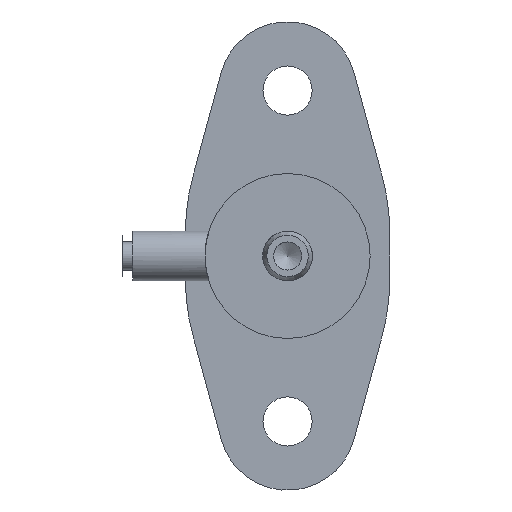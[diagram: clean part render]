
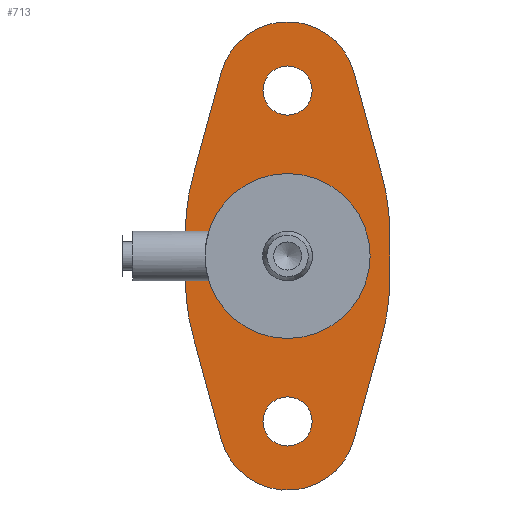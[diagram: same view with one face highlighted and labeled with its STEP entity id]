
A CAD part, left-side view. The second image highlights one B-rep face of the part: STEP entity #713.
In plain terms, the highlighted planar face has unit normal (-1, 0, 0).
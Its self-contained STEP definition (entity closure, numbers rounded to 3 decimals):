
#26=PLANE('',#821);
#39=FACE_BOUND('',#120,.T.);
#40=FACE_BOUND('',#121,.T.);
#41=FACE_BOUND('',#122,.T.);
#78=FACE_OUTER_BOUND('',#119,.T.);
#119=EDGE_LOOP('',(#601,#602,#603,#604,#605,#606,#607,#608,#609,#610,#611,
#612));
#120=EDGE_LOOP('',(#613,#614));
#121=EDGE_LOOP('',(#615,#616));
#122=EDGE_LOOP('',(#617,#618));
#151=LINE('',#1232,#196);
#155=LINE('',#1244,#200);
#159=LINE('',#1256,#204);
#163=LINE('',#1268,#208);
#167=LINE('',#1280,#212);
#170=LINE('',#1289,#215);
#196=VECTOR('',#970,5.2);
#200=VECTOR('',#982,2.328);
#204=VECTOR('',#994,5.2);
#208=VECTOR('',#1006,5.2);
#212=VECTOR('',#1018,2.328);
#215=VECTOR('',#1029,5.2);
#226=CIRCLE('',#746,1.18);
#227=CIRCLE('',#747,1.18);
#230=CIRCLE('',#751,1.18);
#231=CIRCLE('',#752,1.18);
#259=CIRCLE('',#790,3.96);
#262=CIRCLE('',#793,3.96);
#264=CIRCLE('',#799,3.3);
#266=CIRCLE('',#803,10.);
#268=CIRCLE('',#807,10.);
#270=CIRCLE('',#811,3.3);
#272=CIRCLE('',#815,10.);
#274=CIRCLE('',#819,10.);
#284=VERTEX_POINT('',#1078);
#285=VERTEX_POINT('',#1080);
#288=VERTEX_POINT('',#1088);
#289=VERTEX_POINT('',#1090);
#320=VERTEX_POINT('',#1206);
#321=VERTEX_POINT('',#1207);
#326=VERTEX_POINT('',#1222);
#327=VERTEX_POINT('',#1224);
#329=VERTEX_POINT('',#1230);
#331=VERTEX_POINT('',#1236);
#333=VERTEX_POINT('',#1242);
#335=VERTEX_POINT('',#1248);
#337=VERTEX_POINT('',#1254);
#339=VERTEX_POINT('',#1260);
#341=VERTEX_POINT('',#1266);
#343=VERTEX_POINT('',#1272);
#345=VERTEX_POINT('',#1278);
#347=VERTEX_POINT('',#1284);
#361=EDGE_CURVE('',#285,#284,#226,.T.);
#362=EDGE_CURVE('',#284,#285,#227,.T.);
#366=EDGE_CURVE('',#289,#288,#230,.T.);
#367=EDGE_CURVE('',#288,#289,#231,.T.);
#406=EDGE_CURVE('',#320,#321,#259,.T.);
#410=EDGE_CURVE('',#321,#320,#262,.T.);
#413=EDGE_CURVE('',#326,#327,#264,.T.);
#417=EDGE_CURVE('',#329,#326,#151,.T.);
#420=EDGE_CURVE('',#331,#329,#266,.T.);
#423=EDGE_CURVE('',#333,#331,#155,.T.);
#426=EDGE_CURVE('',#335,#333,#268,.T.);
#429=EDGE_CURVE('',#337,#335,#159,.T.);
#432=EDGE_CURVE('',#339,#337,#270,.T.);
#435=EDGE_CURVE('',#341,#339,#163,.T.);
#438=EDGE_CURVE('',#343,#341,#272,.T.);
#441=EDGE_CURVE('',#345,#343,#167,.T.);
#444=EDGE_CURVE('',#347,#345,#274,.T.);
#446=EDGE_CURVE('',#327,#347,#170,.T.);
#601=ORIENTED_EDGE('',*,*,#413,.F.);
#602=ORIENTED_EDGE('',*,*,#417,.F.);
#603=ORIENTED_EDGE('',*,*,#420,.F.);
#604=ORIENTED_EDGE('',*,*,#423,.F.);
#605=ORIENTED_EDGE('',*,*,#426,.F.);
#606=ORIENTED_EDGE('',*,*,#429,.F.);
#607=ORIENTED_EDGE('',*,*,#432,.F.);
#608=ORIENTED_EDGE('',*,*,#435,.F.);
#609=ORIENTED_EDGE('',*,*,#438,.F.);
#610=ORIENTED_EDGE('',*,*,#441,.F.);
#611=ORIENTED_EDGE('',*,*,#444,.F.);
#612=ORIENTED_EDGE('',*,*,#446,.F.);
#613=ORIENTED_EDGE('',*,*,#361,.T.);
#614=ORIENTED_EDGE('',*,*,#362,.T.);
#615=ORIENTED_EDGE('',*,*,#366,.T.);
#616=ORIENTED_EDGE('',*,*,#367,.T.);
#617=ORIENTED_EDGE('',*,*,#406,.F.);
#618=ORIENTED_EDGE('',*,*,#410,.F.);
#713=ADVANCED_FACE('',(#78,#39,#40,#41),#26,.F.);
#746=AXIS2_PLACEMENT_3D('',#1081,#845,#846);
#747=AXIS2_PLACEMENT_3D('',#1082,#847,#848);
#751=AXIS2_PLACEMENT_3D('',#1091,#856,#857);
#752=AXIS2_PLACEMENT_3D('',#1092,#858,#859);
#790=AXIS2_PLACEMENT_3D('',#1208,#943,#944);
#793=AXIS2_PLACEMENT_3D('',#1214,#950,#951);
#799=AXIS2_PLACEMENT_3D('',#1225,#963,#964);
#803=AXIS2_PLACEMENT_3D('',#1238,#976,#977);
#807=AXIS2_PLACEMENT_3D('',#1250,#988,#989);
#811=AXIS2_PLACEMENT_3D('',#1262,#1000,#1001);
#815=AXIS2_PLACEMENT_3D('',#1274,#1012,#1013);
#819=AXIS2_PLACEMENT_3D('',#1286,#1024,#1025);
#821=AXIS2_PLACEMENT_3D('',#1290,#1030,#1031);
#845=DIRECTION('center_axis',(1.,0.,0.));
#846=DIRECTION('ref_axis',(0.,0.,
1.));
#847=DIRECTION('center_axis',(1.,0.,0.));
#848=DIRECTION('ref_axis',(0.,0.,
1.));
#856=DIRECTION('center_axis',(1.,0.,0.));
#857=DIRECTION('ref_axis',(0.,0.,
1.));
#858=DIRECTION('center_axis',(1.,0.,0.));
#859=DIRECTION('ref_axis',(0.,0.,
1.));
#943=DIRECTION('center_axis',(-1.,0.,0.));
#944=DIRECTION('ref_axis',(0.,-1.,0.));
#950=DIRECTION('center_axis',(-1.,0.,0.));
#951=DIRECTION('ref_axis',(0.,-1.,0.));
#963=DIRECTION('center_axis',(1.,0.,0.));
#964=DIRECTION('ref_axis',(0.,-0.965,-0.263));
#970=DIRECTION('',(0.,0.263,-0.965));
#976=DIRECTION('center_axis',(1.,0.,0.));
#977=DIRECTION('ref_axis',(0.,-1.,0.));
#982=DIRECTION('',(0.,0.,-1.));
#988=DIRECTION('center_axis',(1.,0.,0.));
#989=DIRECTION('ref_axis',(0.,-0.965,0.263));
#994=DIRECTION('',(0.,-0.263,-0.965));
#1000=DIRECTION('center_axis',(1.,0.,0.));
#1001=DIRECTION('ref_axis',(0.,0.965,0.263));
#1006=DIRECTION('',(0.,-0.263,0.965));
#1012=DIRECTION('center_axis',(1.,0.,0.));
#1013=DIRECTION('ref_axis',(0.,1.,0.));
#1018=DIRECTION('',(0.,0.,1.));
#1024=DIRECTION('center_axis',(1.,0.,0.));
#1025=DIRECTION('ref_axis',(0.,0.965,-0.263));
#1029=DIRECTION('',(0.,0.263,0.965));
#1030=DIRECTION('center_axis',(1.,0.,0.));
#1031=DIRECTION('ref_axis',(0.,0.,-1.));
#1078=CARTESIAN_POINT('',(5.475,1.18,7.94));
#1080=CARTESIAN_POINT('',(5.475,0.,6.76));
#1081=CARTESIAN_POINT('Origin',(5.475,0.,7.94));
#1082=CARTESIAN_POINT('Origin',(5.475,0.,7.94));
#1088=CARTESIAN_POINT('',(5.475,1.18,-7.94));
#1090=CARTESIAN_POINT('',(5.475,0.,-9.12));
#1091=CARTESIAN_POINT('Origin',(5.475,0.,-7.94));
#1092=CARTESIAN_POINT('Origin',(5.475,0.,-7.94));
#1206=CARTESIAN_POINT('',(5.475,-3.96,0.));
#1207=CARTESIAN_POINT('',(5.475,0.,-3.96));
#1208=CARTESIAN_POINT('Origin',(5.475,0.,0.));
#1214=CARTESIAN_POINT('Origin',(5.475,0.,0.));
#1222=CARTESIAN_POINT('',(5.475,-3.184,-8.806));
#1224=CARTESIAN_POINT('',(5.475,3.184,-8.806));
#1225=CARTESIAN_POINT('Origin',(5.475,0.,-7.94));
#1230=CARTESIAN_POINT('',(5.475,-4.549,-3.789));
#1232=CARTESIAN_POINT('',(5.475,-4.549,-3.789));
#1236=CARTESIAN_POINT('',(5.475,-4.9,-1.164));
#1238=CARTESIAN_POINT('Origin',(5.475,5.1,-1.164));
#1242=CARTESIAN_POINT('',(5.475,-4.9,1.164));
#1244=CARTESIAN_POINT('',(5.475,-4.9,1.164));
#1248=CARTESIAN_POINT('',(5.475,-4.549,3.789));
#1250=CARTESIAN_POINT('Origin',(5.475,5.1,1.164));
#1254=CARTESIAN_POINT('',(5.475,-3.184,8.806));
#1256=CARTESIAN_POINT('',(5.475,-3.184,8.806));
#1260=CARTESIAN_POINT('',(5.475,3.184,8.806));
#1262=CARTESIAN_POINT('Origin',(5.475,0.,7.94));
#1266=CARTESIAN_POINT('',(5.475,4.549,3.789));
#1268=CARTESIAN_POINT('',(5.475,4.549,3.789));
#1272=CARTESIAN_POINT('',(5.475,4.9,1.164));
#1274=CARTESIAN_POINT('Origin',(5.475,-5.1,1.164));
#1278=CARTESIAN_POINT('',(5.475,4.9,-1.164));
#1280=CARTESIAN_POINT('',(5.475,4.9,-1.164));
#1284=CARTESIAN_POINT('',(5.475,4.549,-3.789));
#1286=CARTESIAN_POINT('Origin',(5.475,-5.1,-1.164));
#1289=CARTESIAN_POINT('',(5.475,3.184,-8.806));
#1290=CARTESIAN_POINT('Origin',(5.475,0.,-11.375));
